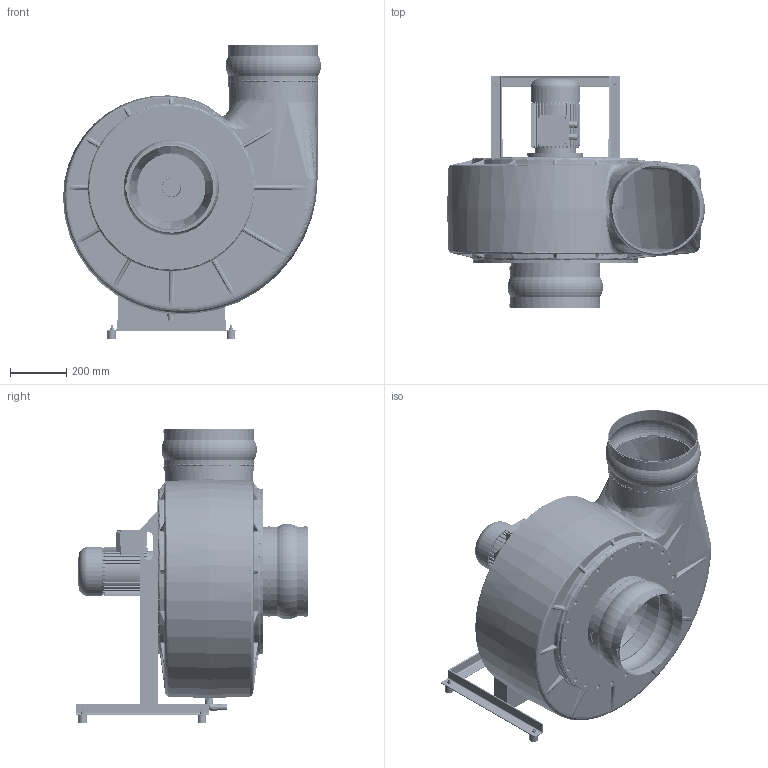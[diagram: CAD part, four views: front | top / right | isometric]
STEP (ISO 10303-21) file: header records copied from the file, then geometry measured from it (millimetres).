
FILE_DESCRIPTION( ( 'Unknown' ), '1' );
FILE_NAME( 'K:/HOME/HLT_CAD/Z/HF/3D/Zusammenstellung/HFR/HFR 15_17/HFR...-15D/DS_1/HFR_315-15D/GR360/HFR_315-15D_DS1_GR_360_090.stp', 'Unknown', ( 'Unknown' ), ( 'Unknown' ), 'PSStep 14.0', 'Unknown', ' ' );
FILE_SCHEMA( ( 'AUTOMOTIVE_DESIGN { 1 0 10303 214 1 1 1 1 }' ) );
Length unit declared in the file: millimetre
Products named in the file (32): 5217_Laufradbefestigung; 5217_Drehteil; 5217_Flachdichtung_Ø32; 5217_Schraubkappe; 5217_Flachdichtung_Ø63; 5158_Gehäusedeckel_315; 5158_Rohr; GD_FL 315; 315; 5158_Rohr_250; 5159_Kondensatablauf_125-315; Winkel_90°_G1_2; Stopfen_G1_2-oa4; Rohr_20; Verschlusskappe_20; 6203_Kugelmanschette; 6203_Manschettenband_HFR315; 6203_Schelle_HFR315; HFR 315_GR; Ensat-Buchse-M8; 5326_Gestell_HFR_315_15_D_DS1; 360-oa0; Angle 40x40x4-oa1; Angle 40x40x4-oa2; Angle 40x40x4-oa3; Assem1; 6611_Motorring_Bg80; Laufrad 315_GR; Schwidä_30x30; 6kant_M8; B5_90L_2HIHI
Assembly tree (95 placements, depth 3):
  Assem1
    6611_Motorring_Bg80
    Laufrad 315_GR
    Schwidä_30x30  x4
    6kant_M8  x4
    B5_90L_2HIHI
    5326_Gestell_HFR_315_15_D_DS1
      360-oa0
      Angle 40x40x4-oa1
      Angle 40x40x4-oa2
      Angle 40x40x4-oa3
    HFR 315_GR
      HFR 315_GR
      Ensat-Buchse-M8  x56
    5158_Gehäusedeckel_315
      5158_Rohr
      GD_FL 315
      315  x2
      5158_Rohr_250
    5159_Kondensatablauf_125-315
      Winkel_90°_G1_2
      Stopfen_G1_2-oa4
      Rohr_20
      Verschlusskappe_20
    6203_Kugelmanschette  x2
      6203_Manschettenband_HFR315
      6203_Schelle_HFR315
    5217_Laufradbefestigung
      5217_Drehteil
      5217_Flachdichtung_Ø32
      5217_Schraubkappe
      5217_Flachdichtung_Ø63
Bounding box: 916.71 x 827 x 1048 mm (x, y, z)
Volume: 15639896.7 mm3; surface area: 7900004.3 mm2
Topology: 90 solids, 92 shells, 3325 faces, 6993 edges, 4359 vertices
Faces by surface type: plane 1409, cylinder 1105, bspline 362, torus 223, cone 134, sphere 48, offset 36, revolution 8
Full cylindrical faces by diameter (mm): 6.647 x65, 8 x14, 9 x2, 10 x4, 10.5 x1, 11 x8, 12 x229, 13 x233, 15 x28, 16 x6, 17 x49, 20 x4, 20.955 x1, 22.212 x1, 23 x1, 24 x5, 25 x1, 26.5 x2, 28.8 x1, 30 x4, 30.291 x1, 32 x1, 33.25 x1, 37 x1, 40 x1, 44 x1, 46 x1, 50 x1, 52 x1, 53 x1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
Entity records: 180772 total; most frequent: CARTESIAN_POINT 103191, DIRECTION 11469, ORIENTED_EDGE 10360, EDGE_CURVE 5180, AXIS2_PLACEMENT_3D 4878, EDGE_LOOP 3783, VERTEX_POINT 3502, FACE_OUTER_BOUND 3246
